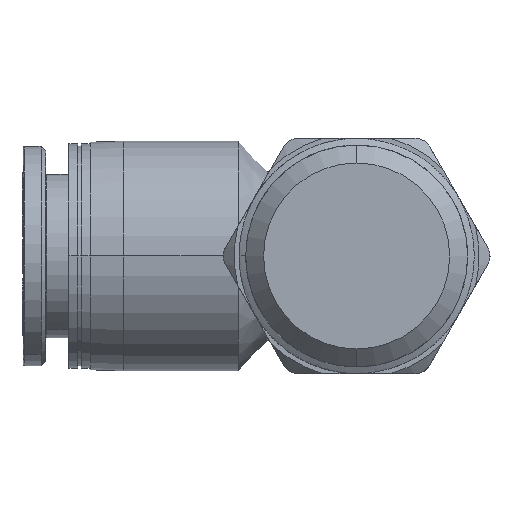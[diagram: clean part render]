
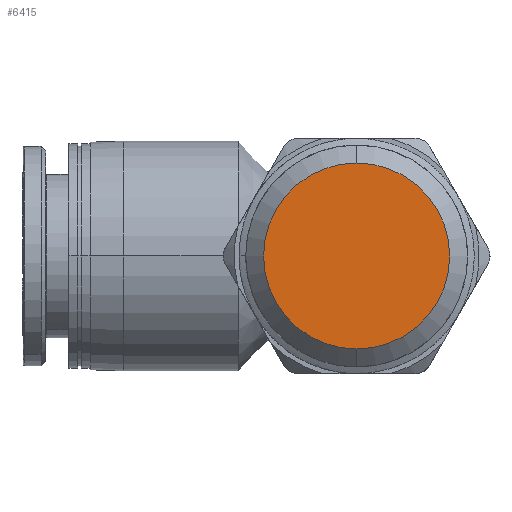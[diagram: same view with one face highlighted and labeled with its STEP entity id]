
A CAD part, front view. The second image highlights one B-rep face of the part: STEP entity #6415.
In plain terms, the highlighted planar face has unit normal (0, -1, 0).
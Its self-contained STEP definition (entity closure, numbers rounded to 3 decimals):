
#162 = PLANE ( 'NONE',  #7120 ) ;
#791 = CARTESIAN_POINT ( 'NONE',  ( 20.162, -27.171, 0. ) ) ;
#840 = DIRECTION ( 'NONE',  ( 0., 1., 0. ) ) ;
#892 = EDGE_LOOP ( 'NONE', ( #6138, #6402 ) ) ;
#1554 = CARTESIAN_POINT ( 'NONE',  ( 20.162, -27.171, 8.296 ) ) ;
#1633 = DIRECTION ( 'NONE',  ( 0., 1., 0. ) ) ;
#1715 = DIRECTION ( 'NONE',  ( 0., 0., 1. ) ) ;
#2770 = DIRECTION ( 'NONE',  ( 0., 0., 1. ) ) ;
#3015 = FACE_OUTER_BOUND ( 'NONE', #892, .T. ) ;
#3266 = AXIS2_PLACEMENT_3D ( 'NONE', #791, #840, #2770 ) ;
#4024 = CIRCLE ( 'NONE', #3266, 8.296 ) ;
#4038 = CARTESIAN_POINT ( 'NONE',  ( 20.162, -27.171, -8.296 ) ) ;
#4618 = CARTESIAN_POINT ( 'NONE',  ( 20.162, -27.171, 0. ) ) ;
#5243 = VERTEX_POINT ( 'NONE', #4038 ) ;
#5286 = EDGE_CURVE ( 'NONE', #8054, #5243, #4024, .T. ) ;
#5295 = DIRECTION ( 'NONE',  ( 0., 1., 0. ) ) ;
#5395 = EDGE_CURVE ( 'NONE', #5243, #8054, #6141, .T. ) ;
#5495 = CARTESIAN_POINT ( 'NONE',  ( 28.458, -27.171, 0. ) ) ;
#6138 = ORIENTED_EDGE ( 'NONE', *, *, #5286, .F. ) ;
#6141 = CIRCLE ( 'NONE', #6304, 8.296 ) ;
#6304 = AXIS2_PLACEMENT_3D ( 'NONE', #4618, #5295, #7231 ) ;
#6402 = ORIENTED_EDGE ( 'NONE', *, *, #5395, .F. ) ;
#6415 = ADVANCED_FACE ( 'NONE', ( #3015 ), #162, .F. ) ;
#7120 = AXIS2_PLACEMENT_3D ( 'NONE', #5495, #1633, #1715 ) ;
#7231 = DIRECTION ( 'NONE',  ( 0., 0., 1. ) ) ;
#8054 = VERTEX_POINT ( 'NONE', #1554 ) ;
